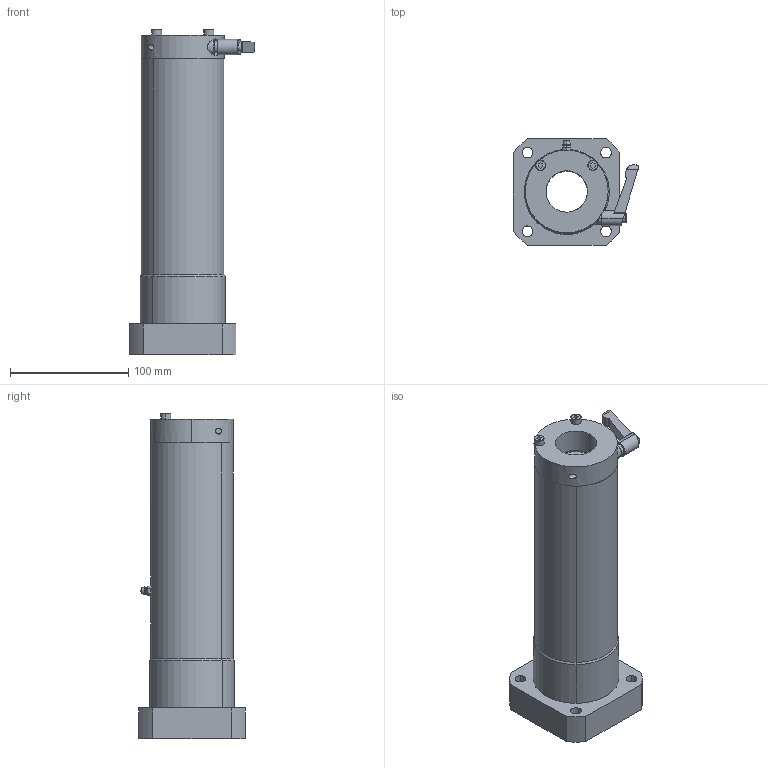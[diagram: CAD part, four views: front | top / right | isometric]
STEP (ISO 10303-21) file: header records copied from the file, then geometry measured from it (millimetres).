
FILE_DESCRIPTION (( 'STEP AP214' ), '1' );
FILE_NAME ('LFWL35A-CS.STEP', '2023-06-27T02:38:23', ( '' ), ( '' ), 'SwSTEP 2.0', 'SolidWorks 2019', '' );
FILE_SCHEMA (( 'AUTOMOTIVE_DESIGN' ));
Length unit declared in the file: millimetre
Products named in the file (3): LFWL35A-CS; “ÁSCK3520SS-S5.5; LFWL35A
Assembly tree (2 placements, depth 2):
  LFWL35A-CS
    LFWL35A
    “ÁSCK3520SS-S5.5
Bounding box: 105.7 x 90 x 275 mm (x, y, z)
Volume: 878966.3 mm3; surface area: 130785.6 mm2
Topology: 3 solids, 9 shells, 237 faces, 592 edges, 371 vertices
Faces by surface type: cylinder 85, plane 71, bspline 47, cone 22, torus 8, sphere 4
Entity records: 10432 total; most frequent: CARTESIAN_POINT 2314, DIRECTION 1238, ORIENTED_EDGE 1180, EDGE_CURVE 590, AXIS2_PLACEMENT_3D 518, VERTEX_POINT 370, CIRCLE 323, EDGE_LOOP 284
